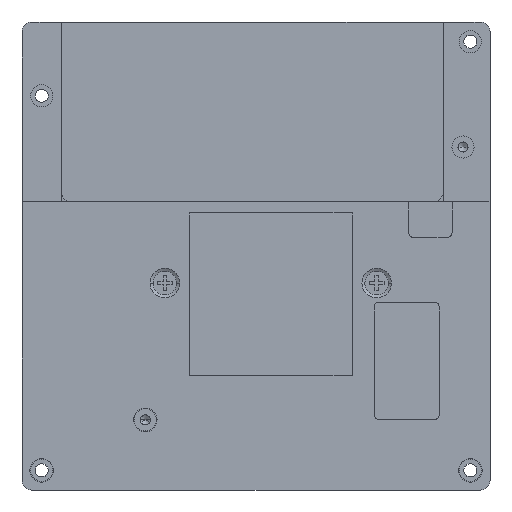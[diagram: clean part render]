
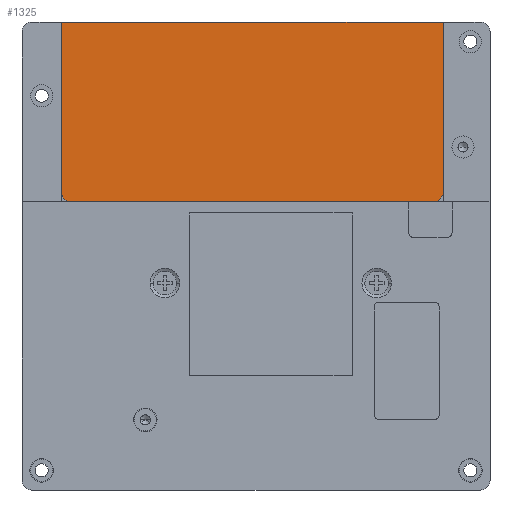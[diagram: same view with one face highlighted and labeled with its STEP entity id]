
A CAD part, front view. The second image highlights one B-rep face of the part: STEP entity #1325.
In plain terms, the highlighted planar face has unit normal (0, -1, 0).
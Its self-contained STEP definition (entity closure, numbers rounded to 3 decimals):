
#288=CARTESIAN_POINT('',(-37.5,6.,13.));
#289=DIRECTION('',(0.,-1.,0.));
#290=DIRECTION('',(-1.,0.,0.));
#291=AXIS2_PLACEMENT_3D('',#288,#289,#290);
#293=DIRECTION('',(0.,0.,1.));
#294=VECTOR('',#293,34.5);
#295=CARTESIAN_POINT('',(-39.5,6.,13.));
#296=LINE('',#295,#294);
#297=DIRECTION('',(0.,0.,-1.));
#298=VECTOR('',#297,34.5);
#299=CARTESIAN_POINT('',(38.,6.,47.5));
#300=LINE('',#299,#298);
#301=CARTESIAN_POINT('',(36.,6.,13.));
#302=DIRECTION('',(0.,-1.,0.));
#303=DIRECTION('',(0.,0.,-1.));
#304=AXIS2_PLACEMENT_3D('',#301,#302,#303);
#306=DIRECTION('',(-1.,0.,0.));
#307=VECTOR('',#306,73.5);
#308=CARTESIAN_POINT('',(36.,6.,11.));
#309=LINE('',#308,#307);
#326=DIRECTION('',(1.,0.,0.));
#327=VECTOR('',#326,77.5);
#328=CARTESIAN_POINT('',(-39.5,6.,47.5));
#329=LINE('',#328,#327);
#761=CARTESIAN_POINT('',(-39.5,6.,13.));
#762=CARTESIAN_POINT('',(-37.5,6.,11.));
#763=VERTEX_POINT('',#761);
#764=VERTEX_POINT('',#762);
#853=CARTESIAN_POINT('',(-39.5,6.,47.5));
#854=CARTESIAN_POINT('',(38.,6.,47.5));
#855=VERTEX_POINT('',#853);
#856=VERTEX_POINT('',#854);
#861=CARTESIAN_POINT('',(36.,6.,11.));
#862=CARTESIAN_POINT('',(38.,6.,13.));
#863=VERTEX_POINT('',#861);
#864=VERTEX_POINT('',#862);
#1308=CARTESIAN_POINT('',(0.,6.,0.));
#1309=DIRECTION('',(0.,1.,0.));
#1310=DIRECTION('',(1.,0.,0.));
#1311=AXIS2_PLACEMENT_3D('',#1308,#1309,#1310);
#1312=PLANE('',#1311);
#1313=ORIENTED_EDGE('',*,*,#1301,.F.);
#1314=ORIENTED_EDGE('',*,*,#1289,.T.);
#1316=ORIENTED_EDGE('',*,*,#1315,.T.);
#1318=ORIENTED_EDGE('',*,*,#1317,.T.);
#1320=ORIENTED_EDGE('',*,*,#1319,.F.);
#1322=ORIENTED_EDGE('',*,*,#1321,.T.);
#1323=EDGE_LOOP('',(#1313,#1314,#1316,#1318,#1320,#1322));
#1324=FACE_OUTER_BOUND('',#1323,.F.);
#1325=ADVANCED_FACE('',(#1324),#1312,.F.);
#292=CIRCLE('',#291,2.);
#305=CIRCLE('',#304,2.);
#1289=EDGE_CURVE('',#763,#855,#296,.T.);
#1301=EDGE_CURVE('',#763,#764,#292,.T.);
#1315=EDGE_CURVE('',#855,#856,#329,.T.);
#1317=EDGE_CURVE('',#856,#864,#300,.T.);
#1319=EDGE_CURVE('',#863,#864,#305,.T.);
#1321=EDGE_CURVE('',#863,#764,#309,.T.);
